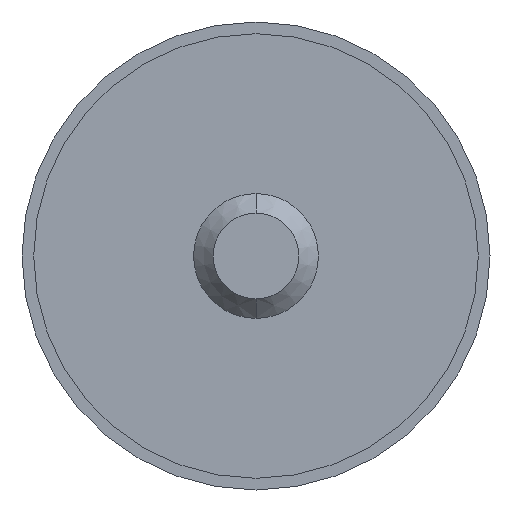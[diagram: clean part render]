
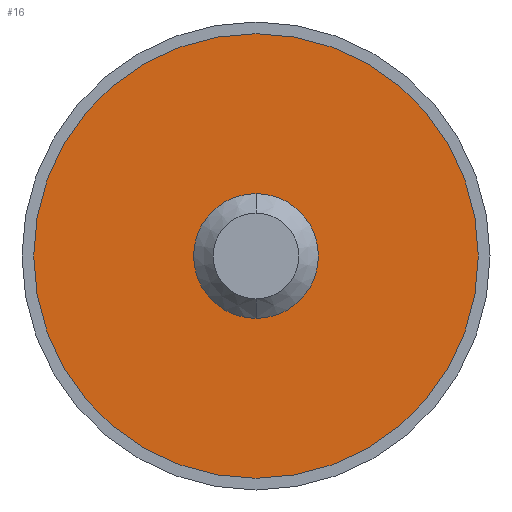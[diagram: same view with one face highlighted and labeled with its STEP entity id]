
A CAD part, front view. The second image highlights one B-rep face of the part: STEP entity #16.
In plain terms, the highlighted planar face has unit normal (0, -1, 0).
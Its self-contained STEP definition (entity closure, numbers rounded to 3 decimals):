
#16 = ADVANCED_FACE ( 'NONE', ( #266, #3427 ), #253, .F. ) ;
#41 = CARTESIAN_POINT ( 'NONE',  ( 0., -1., 14.25 ) ) ;
#180 = CARTESIAN_POINT ( 'NONE',  ( 0., -1., 0. ) ) ;
#213 = DIRECTION ( 'NONE',  ( 0., 0., 1. ) ) ;
#223 = DIRECTION ( 'NONE',  ( 0., -1., 0. ) ) ;
#253 = PLANE ( 'NONE',  #538 ) ;
#254 = ORIENTED_EDGE ( 'NONE', *, *, #3667, .F. ) ;
#266 = FACE_BOUND ( 'NONE', #681, .T. ) ;
#297 = ORIENTED_EDGE ( 'NONE', *, *, #3799, .F. ) ;
#321 = CIRCLE ( 'NONE', #3875, 14.25 ) ;
#538 = AXIS2_PLACEMENT_3D ( 'NONE', #2630, #3569, #213 ) ;
#681 = EDGE_LOOP ( 'NONE', ( #1220, #254 ) ) ;
#754 = EDGE_CURVE ( 'NONE', #954, #2512, #3297, .T. ) ;
#821 = VERTEX_POINT ( 'NONE', #1218 ) ;
#954 = VERTEX_POINT ( 'NONE', #3686 ) ;
#973 = EDGE_LOOP ( 'NONE', ( #2645, #297 ) ) ;
#1213 = EDGE_CURVE ( 'NONE', #1450, #821, #1381, .T. ) ;
#1218 = CARTESIAN_POINT ( 'NONE',  ( 0., -1., -14.25 ) ) ;
#1220 = ORIENTED_EDGE ( 'NONE', *, *, #754, .F. ) ;
#1349 = DIRECTION ( 'NONE',  ( 0., 0., 1. ) ) ;
#1381 = CIRCLE ( 'NONE', #1852, 14.25 ) ;
#1450 = VERTEX_POINT ( 'NONE', #41 ) ;
#1852 = AXIS2_PLACEMENT_3D ( 'NONE', #180, #2339, #3532 ) ;
#1971 = CIRCLE ( 'NONE', #2254, 4. ) ;
#2112 = DIRECTION ( 'NONE',  ( 0., 0., -1. ) ) ;
#2254 = AXIS2_PLACEMENT_3D ( 'NONE', #2300, #3816, #3209 ) ;
#2300 = CARTESIAN_POINT ( 'NONE',  ( 0., -1., 0. ) ) ;
#2339 = DIRECTION ( 'NONE',  ( 0., 1., 0. ) ) ;
#2512 = VERTEX_POINT ( 'NONE', #3700 ) ;
#2630 = CARTESIAN_POINT ( 'NONE',  ( 0., -1., 0. ) ) ;
#2645 = ORIENTED_EDGE ( 'NONE', *, *, #1213, .F. ) ;
#2726 = CARTESIAN_POINT ( 'NONE',  ( 0., -1., 0. ) ) ;
#3088 = AXIS2_PLACEMENT_3D ( 'NONE', #2726, #223, #2112 ) ;
#3162 = DIRECTION ( 'NONE',  ( 0., 1., 0. ) ) ;
#3209 = DIRECTION ( 'NONE',  ( 0., 0., -1. ) ) ;
#3297 = CIRCLE ( 'NONE', #3088, 4. ) ;
#3427 = FACE_OUTER_BOUND ( 'NONE', #973, .T. ) ;
#3532 = DIRECTION ( 'NONE',  ( 0., 0., 1. ) ) ;
#3569 = DIRECTION ( 'NONE',  ( 0., 1., 0. ) ) ;
#3667 = EDGE_CURVE ( 'NONE', #2512, #954, #1971, .T. ) ;
#3686 = CARTESIAN_POINT ( 'NONE',  ( 0., -1., 4. ) ) ;
#3700 = CARTESIAN_POINT ( 'NONE',  ( 0., -1., -4. ) ) ;
#3739 = CARTESIAN_POINT ( 'NONE',  ( 0., -1., 0. ) ) ;
#3799 = EDGE_CURVE ( 'NONE', #821, #1450, #321, .T. ) ;
#3816 = DIRECTION ( 'NONE',  ( 0., -1., 0. ) ) ;
#3875 = AXIS2_PLACEMENT_3D ( 'NONE', #3739, #3162, #1349 ) ;
